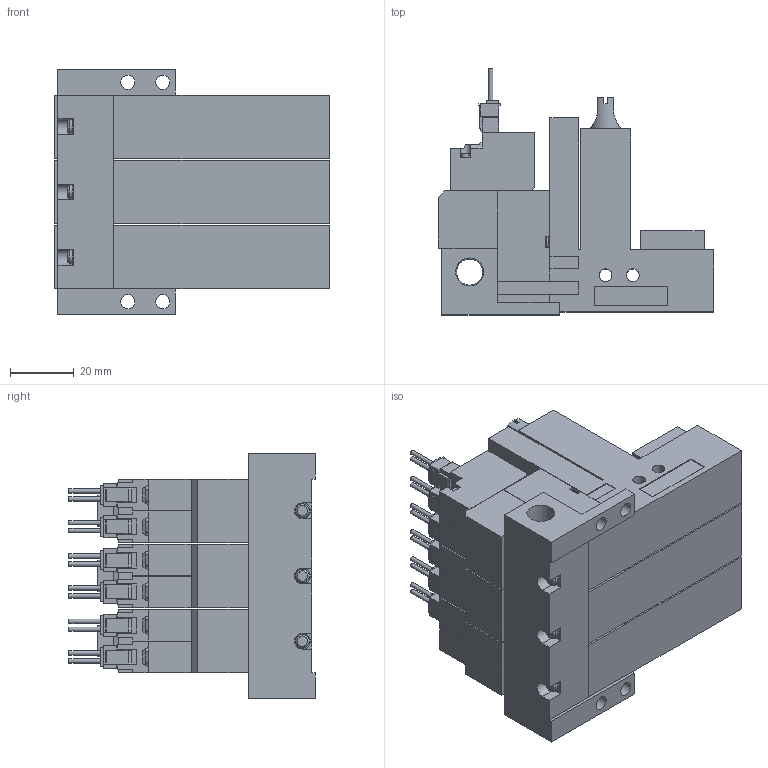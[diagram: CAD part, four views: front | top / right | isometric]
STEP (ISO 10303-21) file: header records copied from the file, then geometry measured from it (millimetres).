
FILE_DESCRIPTION(('STEP AP203'),'1');
FILE_NAME('ZL5BLR303.stp','2025-02-18T07:20:39',(' '),(' '),'Spatial InterOp 3D',' ',' ');
FILE_SCHEMA(('CONFIG_CONTROL_DESIGN'));
Length unit declared in the file: millimetre
Products named in the file (5): BMC22M※※※※ZL5BLR303; Solenoid valve B; Pressure sensor ZL; Unit L; Base MR30R
Assembly tree (10 placements, depth 2):
  BMC22M※※※※ZL5BLR303
    Solenoid valve B  x3
    Pressure sensor ZL  x3
    Unit L  x3
    Base MR30R
Bounding box: 86.6 x 77.45 x 77 mm (x, y, z)
Volume: 232674.6 mm3; surface area: 66811.6 mm2
Topology: 10 solids, 10 shells, 987 faces, 2687 edges, 1774 vertices
Faces by surface type: plane 848, cylinder 107, cone 23, torus 9
Full cylindrical faces by diameter (mm): 1.4 x12, 2.5 x3, 3 x12, 3.5 x12, 3.6 x3, 4 x6, 4.134 x3, 4.5 x4, 5.2 x3, 6 x3, 6.6 x3, 8.279 x1
Entity records: 11755 total; most frequent: CARTESIAN_POINT 2202, ORIENTED_EDGE 1872, DIRECTION 1854, EDGE_CURVE 936, LINE 780, VECTOR 780, VERTEX_POINT 650, AXIS2_PLACEMENT_3D 537
